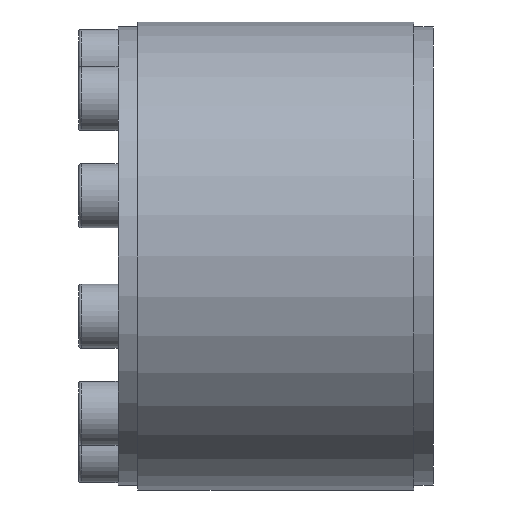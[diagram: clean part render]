
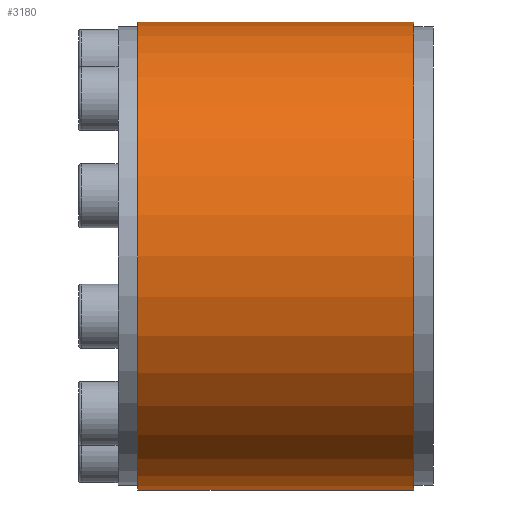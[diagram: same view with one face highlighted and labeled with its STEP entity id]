
A CAD part, left-side view. The second image highlights one B-rep face of the part: STEP entity #3180.
In plain terms, the highlighted cylindrical face has radius 47.5 mm (diameter 95 mm), a partial arc.
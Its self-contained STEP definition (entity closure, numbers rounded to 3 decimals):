
#53 = VECTOR ( 'NONE', #3357, 1000. ) ;
#190 = DIRECTION ( 'NONE',  ( 0., 0., -1. ) ) ;
#206 = VERTEX_POINT ( 'NONE', #1505 ) ;
#273 = CYLINDRICAL_SURFACE ( 'NONE', #915, 47.5 ) ;
#376 = CARTESIAN_POINT ( 'NONE',  ( 0., 0., 47.5 ) ) ;
#467 = DIRECTION ( 'NONE',  ( 0., 0., -1. ) ) ;
#497 = DIRECTION ( 'NONE',  ( 0., -1., 0. ) ) ;
#568 = LINE ( 'NONE', #1091, #1893 ) ;
#719 = AXIS2_PLACEMENT_3D ( 'NONE', #1373, #1649, #190 ) ;
#733 = CARTESIAN_POINT ( 'NONE',  ( 0., 28., 0. ) ) ;
#807 = VERTEX_POINT ( 'NONE', #1779 ) ;
#858 = ORIENTED_EDGE ( 'NONE', *, *, #1212, .T. ) ;
#915 = AXIS2_PLACEMENT_3D ( 'NONE', #1365, #497, #2030 ) ;
#1091 = CARTESIAN_POINT ( 'NONE',  ( 0., 0., -47.5 ) ) ;
#1101 = DIRECTION ( 'NONE',  ( 0., -1., 0. ) ) ;
#1197 = LINE ( 'NONE', #376, #53 ) ;
#1212 = EDGE_CURVE ( 'NONE', #2362, #2124, #568, .T. ) ;
#1365 = CARTESIAN_POINT ( 'NONE',  ( 0., 0., 0. ) ) ;
#1373 = CARTESIAN_POINT ( 'NONE',  ( 0., -28., 0. ) ) ;
#1423 = AXIS2_PLACEMENT_3D ( 'NONE', #733, #1610, #467 ) ;
#1504 = CARTESIAN_POINT ( 'NONE',  ( 0., 28., -47.5 ) ) ;
#1505 = CARTESIAN_POINT ( 'NONE',  ( 0., -28., 47.5 ) ) ;
#1610 = DIRECTION ( 'NONE',  ( 0., -1., 0. ) ) ;
#1649 = DIRECTION ( 'NONE',  ( 0., -1., 0. ) ) ;
#1779 = CARTESIAN_POINT ( 'NONE',  ( 0., 28., 47.5 ) ) ;
#1887 = ORIENTED_EDGE ( 'NONE', *, *, #2418, .F. ) ;
#1893 = VECTOR ( 'NONE', #1101, 1000. ) ;
#2030 = DIRECTION ( 'NONE',  ( 0., 0., -1. ) ) ;
#2124 = VERTEX_POINT ( 'NONE', #3509 ) ;
#2230 = CIRCLE ( 'NONE', #1423, 47.5 ) ;
#2362 = VERTEX_POINT ( 'NONE', #1504 ) ;
#2418 = EDGE_CURVE ( 'NONE', #807, #206, #1197, .T. ) ;
#2434 = FACE_OUTER_BOUND ( 'NONE', #3165, .T. ) ;
#2477 = CIRCLE ( 'NONE', #719, 47.5 ) ;
#2703 = ORIENTED_EDGE ( 'NONE', *, *, #3606, .T. ) ;
#3049 = EDGE_CURVE ( 'NONE', #206, #2124, #2477, .T. ) ;
#3165 = EDGE_LOOP ( 'NONE', ( #1887, #2703, #858, #3701 ) ) ;
#3180 = ADVANCED_FACE ( 'NONE', ( #2434 ), #273, .T. ) ;
#3357 = DIRECTION ( 'NONE',  ( 0., -1., 0. ) ) ;
#3509 = CARTESIAN_POINT ( 'NONE',  ( 0., -28., -47.5 ) ) ;
#3606 = EDGE_CURVE ( 'NONE', #807, #2362, #2230, .T. ) ;
#3701 = ORIENTED_EDGE ( 'NONE', *, *, #3049, .F. ) ;
